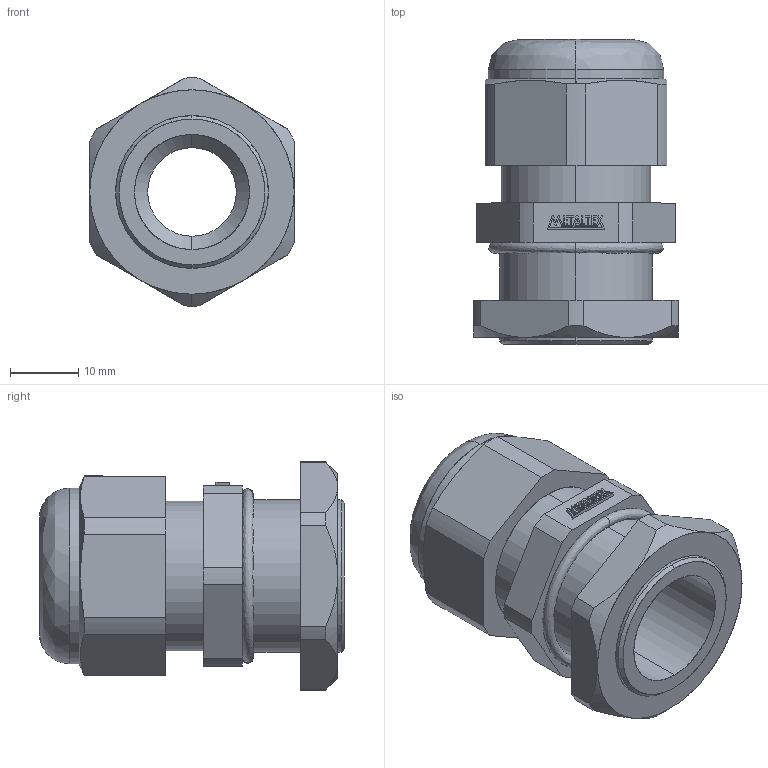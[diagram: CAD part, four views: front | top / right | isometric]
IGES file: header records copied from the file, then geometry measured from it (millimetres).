
Start section: SolidWorks IGES file using analytic representation for surfaces
Global section: file name: D:\X - Arquivos\PROEX\Empresas\P11 - METALTEX\01 - Produtos\IGES\Terceira remessa\Etapa 2\CH-PG16L.IGS; native system: SolidWorks 2012; preprocessor: SolidWorks 2012; author: Usuario; date: 180207.123656; units: millimetre
Bounding box: 30 x 44.75 x 33.5 mm (x, y, z)
Surface area: 7979.4 mm2 (no closed solid volume)
Topology: 0 solids, 0 shells, 174 faces, 1313 edges, 1313 vertices
Faces by surface type: bspline 125, revolution 49
